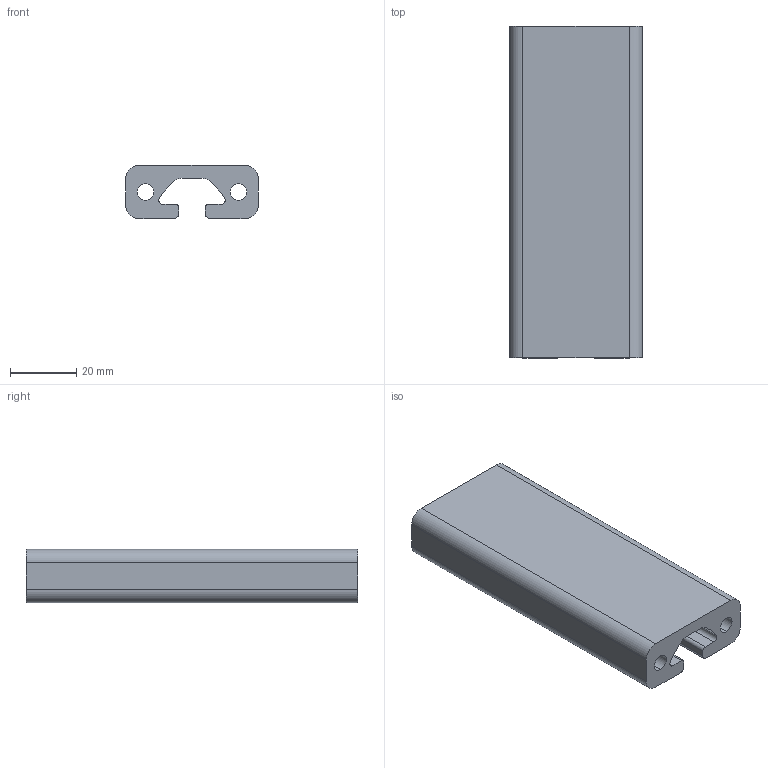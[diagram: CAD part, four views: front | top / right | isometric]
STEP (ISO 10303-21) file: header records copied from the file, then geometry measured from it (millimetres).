
FILE_DESCRIPTION (( 'STEP AP203' ), '1' );
FILE_NAME ('0108P4016.STEP', '2024-02-28T13:54:00', ( 'Windows-Benutzer' ), ( '' ), 'SwSTEP 2.0', 'SolidWorks 2023', '' );
FILE_SCHEMA (( 'CONFIG_CONTROL_DESIGN' ));
Length unit declared in the file: millimetre
Products named in the file (1): 0108P4016
Bounding box: 40 x 100 x 16 mm (x, y, z)
Volume: 42716.7 mm3; surface area: 18301 mm2
Topology: 1 solids, 1 shells, 30 faces, 84 edges, 56 vertices
Faces by surface type: cylinder 18, plane 12
Entity records: 1069 total; most frequent: DIRECTION 182, CARTESIAN_POINT 171, ORIENTED_EDGE 168, EDGE_CURVE 84, AXIS2_PLACEMENT_3D 67, VERTEX_POINT 56, VECTOR 48, LINE 48
